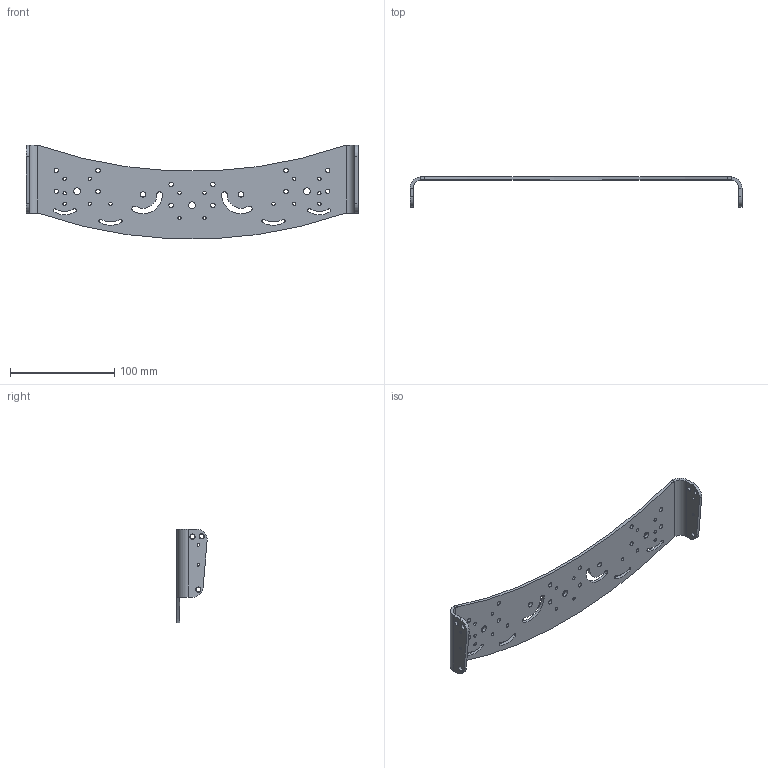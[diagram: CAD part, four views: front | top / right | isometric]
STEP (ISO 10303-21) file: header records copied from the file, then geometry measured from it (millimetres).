
FILE_DESCRIPTION (( 'STEP AP203' ), '1' );
FILE_NAME ('BR-102107_RevA.step', '2023-08-10T23:05:44', ( '' ), ( '' ), 'SwSTEP 2.0', 'SolidWorks 2022', '' );
FILE_SCHEMA (( 'CONFIG_CONTROL_DESIGN' ));
Length unit declared in the file: millimetre
Products named in the file (1): BR-102107_RevA
Bounding box: 318 x 29.06 x 89.5 mm (x, y, z)
Volume: 65847.5 mm3; surface area: 49123.9 mm2
Topology: 1 solids, 1 shells, 152 faces, 442 edges, 292 vertices
Faces by surface type: cylinder 136, plane 16
Entity records: 5455 total; most frequent: DIRECTION 1012, CARTESIAN_POINT 911, ORIENTED_EDGE 884, EDGE_CURVE 442, AXIS2_PLACEMENT_3D 425, VERTEX_POINT 292, CIRCLE 272, EDGE_LOOP 250
